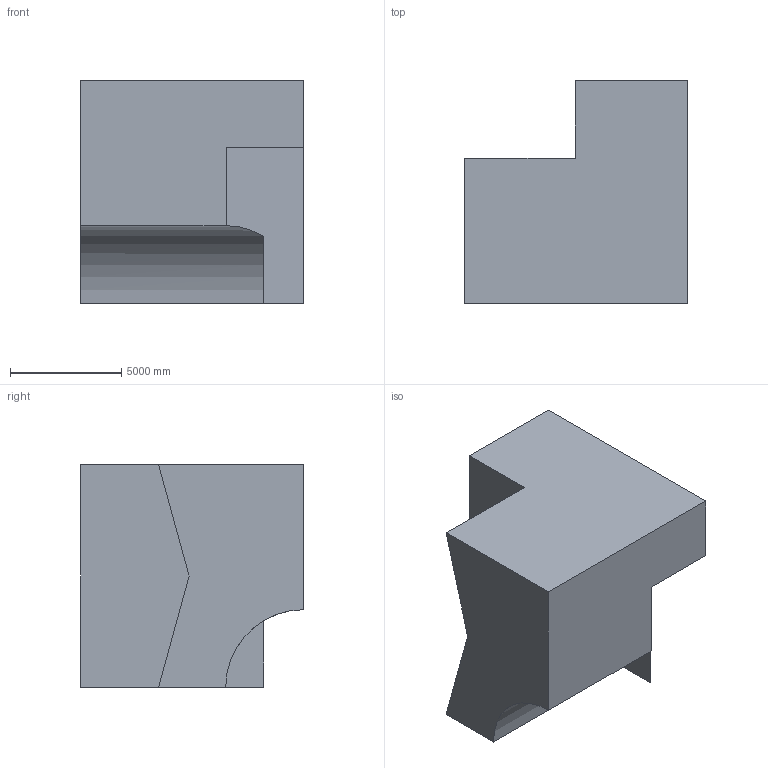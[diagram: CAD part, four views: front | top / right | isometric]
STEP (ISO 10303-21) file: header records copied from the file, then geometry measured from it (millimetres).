
FILE_DESCRIPTION (( 'STEP AP203' ), '1' );
FILE_NAME ('248.STEP', '2022-09-07T12:26:19', ( 'user' ), ( '' ), 'SwSTEP 2.0', 'SolidWorks 2021', '' );
FILE_SCHEMA (( 'CONFIG_CONTROL_DESIGN' ));
Length unit declared in the file: centimetre
Products named in the file (1): 248
Bounding box: 10000 x 10000 x 10000 mm (x, y, z)
Volume: 674802688691.3 mm3; surface area: 532082466.5 mm2
Topology: 1 solids, 1 shells, 13 faces, 33 edges, 22 vertices
Faces by surface type: plane 12, cylinder 1
Entity records: 466 total; most frequent: CARTESIAN_POINT 72, ORIENTED_EDGE 66, DIRECTION 62, EDGE_CURVE 33, VECTOR 30, LINE 30, VERTEX_POINT 22, AXIS2_PLACEMENT_3D 16
